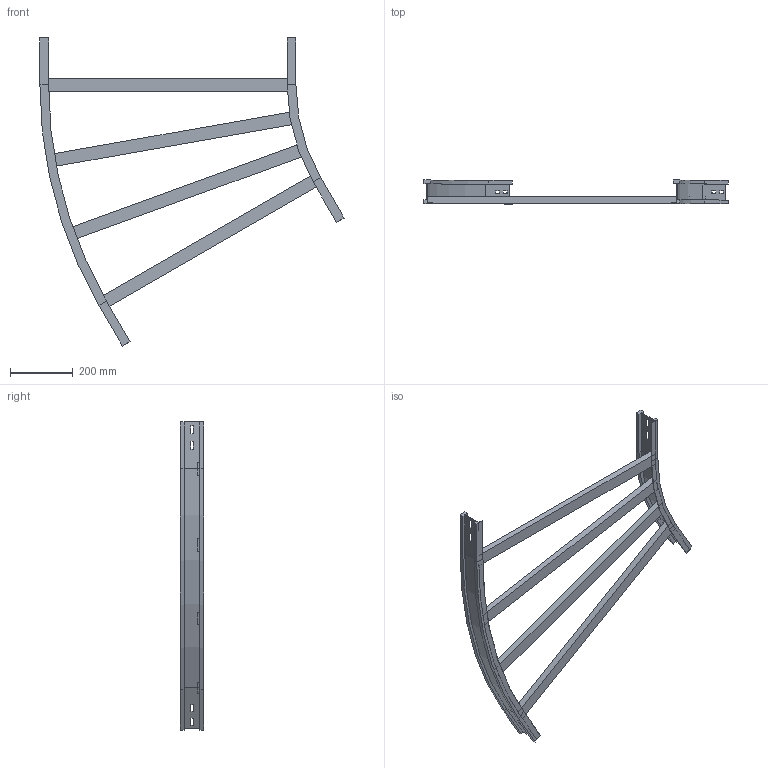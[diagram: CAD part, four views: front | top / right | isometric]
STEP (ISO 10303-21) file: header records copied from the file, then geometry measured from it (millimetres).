
FILE_DESCRIPTION (( 'STEP AP214' ), '1' );
FILE_NAME ('12S6C800.step', '2025-02-21T16:02:50', ( '' ), ( '' ), 'SwSTEP 2.0', 'SolidWorks 2023', '' );
FILE_SCHEMA (( 'AUTOMOTIVE_DESIGN' ));
Length unit declared in the file: millimetre
Products named in the file (4): 12S6C800; LONGH.ESTERNO 30°_H75_R600+800; LONGH.INTERNO 30°_H75_R600; TRAVERSINO_800
Assembly tree (6 placements, depth 2):
  12S6C800
    LONGH.INTERNO 30°_H75_R600
    LONGH.ESTERNO 30°_H75_R600+800
    TRAVERSINO_800  x4
Bounding box: 972.18 x 75 x 984.4 mm (x, y, z)
Volume: 3391236.6 mm3; surface area: 798272.8 mm2
Topology: 6 solids, 6 shells, 132 faces, 312 edges, 192 vertices
Faces by surface type: plane 120, cylinder 12
Entity records: 3397 total; most frequent: CARTESIAN_POINT 567, ORIENTED_EDGE 552, DIRECTION 546, EDGE_CURVE 276, VECTOR 252, LINE 252, VERTEX_POINT 168, AXIS2_PLACEMENT_3D 147
